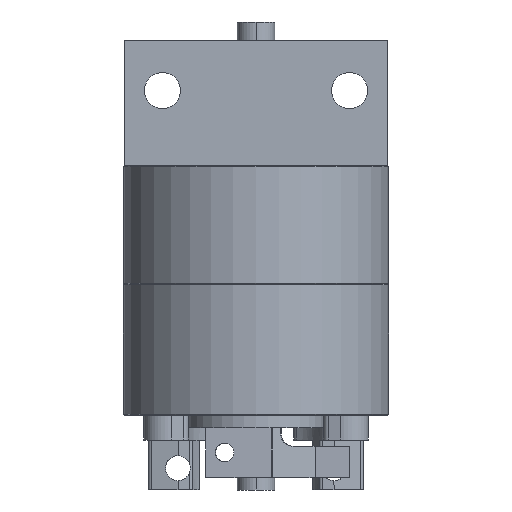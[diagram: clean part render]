
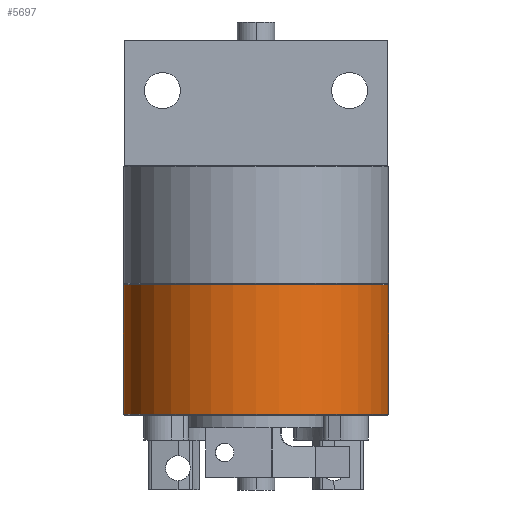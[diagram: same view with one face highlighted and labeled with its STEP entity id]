
A CAD part, front view. The second image highlights one B-rep face of the part: STEP entity #5697.
In plain terms, the highlighted cylindrical face has radius 21.25 mm (diameter 42.5 mm), a partial arc.
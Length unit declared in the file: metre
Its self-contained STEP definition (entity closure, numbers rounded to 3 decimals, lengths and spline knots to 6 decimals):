
#3437 = EDGE_CURVE ( 'NONE', #13676, #10298, #11320, .T. ) ;
#3470 = EDGE_CURVE ( 'NONE', #12658, #12406, #8324, .T. ) ;
#3716 = AXIS2_PLACEMENT_3D ( 'NONE', #9214, #9412, #9390 ) ;
#3790 = AXIS2_PLACEMENT_3D ( 'NONE', #8970, #9004, #8902 ) ;
#5023 = CARTESIAN_POINT ( 'NONE',  ( -0.02125, 0., -0.0209 ) ) ;
#5506 = CARTESIAN_POINT ( 'NONE',  ( 0.02125, 0., -0.0001 ) ) ;
#5697 = ADVANCED_FACE ( 'NONE', ( #8726 ), #7860, .T. ) ;
#6177 = AXIS2_PLACEMENT_3D ( 'NONE', #9915, #9730, #9850 ) ;
#6756 = ORIENTED_EDGE ( 'NONE', *, *, #7007, .T. ) ;
#6970 = EDGE_CURVE ( 'NONE', #10298, #12406, #10760, .T. ) ;
#7007 = EDGE_CURVE ( 'NONE', #13676, #12658, #13859, .T. ) ;
#7077 = CARTESIAN_POINT ( 'NONE',  ( -0.02125, 0., -0.0001 ) ) ;
#7260 = VECTOR ( 'NONE', #13360, 1. ) ;
#7285 = EDGE_LOOP ( 'NONE', ( #11494, #6756, #14243, #13892 ) ) ;
#7860 = CYLINDRICAL_SURFACE ( 'NONE', #6177, 0.02125 ) ;
#8324 = LINE ( 'NONE', #13709, #7260 ) ;
#8726 = FACE_OUTER_BOUND ( 'NONE', #7285, .T. ) ;
#8902 = DIRECTION ( 'NONE',  ( 1., 0., 0. ) ) ;
#8970 = CARTESIAN_POINT ( 'NONE',  ( 0., 0., -0.0001 ) ) ;
#9004 = DIRECTION ( 'NONE',  ( 0., 0., 1. ) ) ;
#9214 = CARTESIAN_POINT ( 'NONE',  ( 0., 0., -0.0209 ) ) ;
#9390 = DIRECTION ( 'NONE',  ( 1., 0., 0. ) ) ;
#9398 = VECTOR ( 'NONE', #12015, 1. ) ;
#9412 = DIRECTION ( 'NONE',  ( 0., 0., 1. ) ) ;
#9730 = DIRECTION ( 'NONE',  ( 0., 0., 1. ) ) ;
#9850 = DIRECTION ( 'NONE',  ( 1., 0., 0. ) ) ;
#9915 = CARTESIAN_POINT ( 'NONE',  ( 0., 0., -0.0209 ) ) ;
#10298 = VERTEX_POINT ( 'NONE', #7077 ) ;
#10631 = CARTESIAN_POINT ( 'NONE',  ( -0.02125, 0., -0.0209 ) ) ;
#10760 = CIRCLE ( 'NONE', #3790, 0.02125 ) ;
#11320 = LINE ( 'NONE', #10631, #9398 ) ;
#11494 = ORIENTED_EDGE ( 'NONE', *, *, #3437, .F. ) ;
#12015 = DIRECTION ( 'NONE',  ( 0., 0., 1. ) ) ;
#12406 = VERTEX_POINT ( 'NONE', #5506 ) ;
#12658 = VERTEX_POINT ( 'NONE', #14040 ) ;
#13360 = DIRECTION ( 'NONE',  ( 0., 0., 1. ) ) ;
#13676 = VERTEX_POINT ( 'NONE', #5023 ) ;
#13709 = CARTESIAN_POINT ( 'NONE',  ( 0.02125, 0., -0.0209 ) ) ;
#13859 = CIRCLE ( 'NONE', #3716, 0.02125 ) ;
#13892 = ORIENTED_EDGE ( 'NONE', *, *, #6970, .F. ) ;
#14040 = CARTESIAN_POINT ( 'NONE',  ( 0.02125, 0., -0.0209 ) ) ;
#14243 = ORIENTED_EDGE ( 'NONE', *, *, #3470, .T. ) ;
